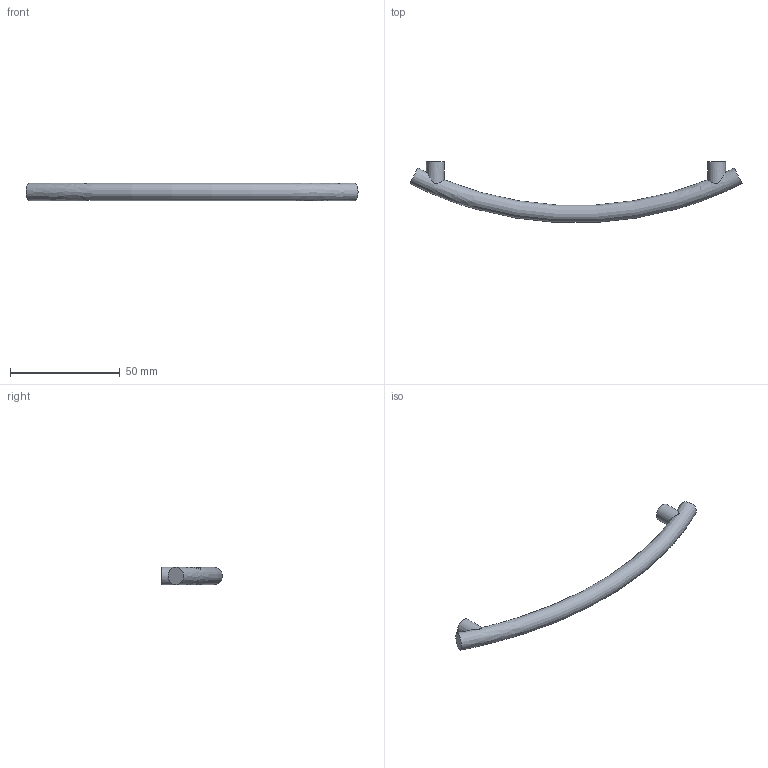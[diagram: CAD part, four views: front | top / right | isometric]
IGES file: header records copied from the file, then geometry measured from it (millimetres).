
Start section: Data from Parasolid IGES Translator 15.0.47, Copyright(c) 2006 Siemens P LM Software. All Rights Reserved.
Global section: file name: 9070485.igs; native system:  By UGS Corp.; preprocessor: XPlus GENERIC/IGES 3.0; author: Noname; organization: Noname; date: 20140122.153528; units: millimetre
Bounding box: 151 x 27.69 x 8 mm (x, y, z)
Surface area: 4503.4 mm2 (no closed solid volume)
Topology: 0 solids, 0 shells, 19 faces, 90 edges, 84 vertices
Faces by surface type: extrusion 10, revolution 9
